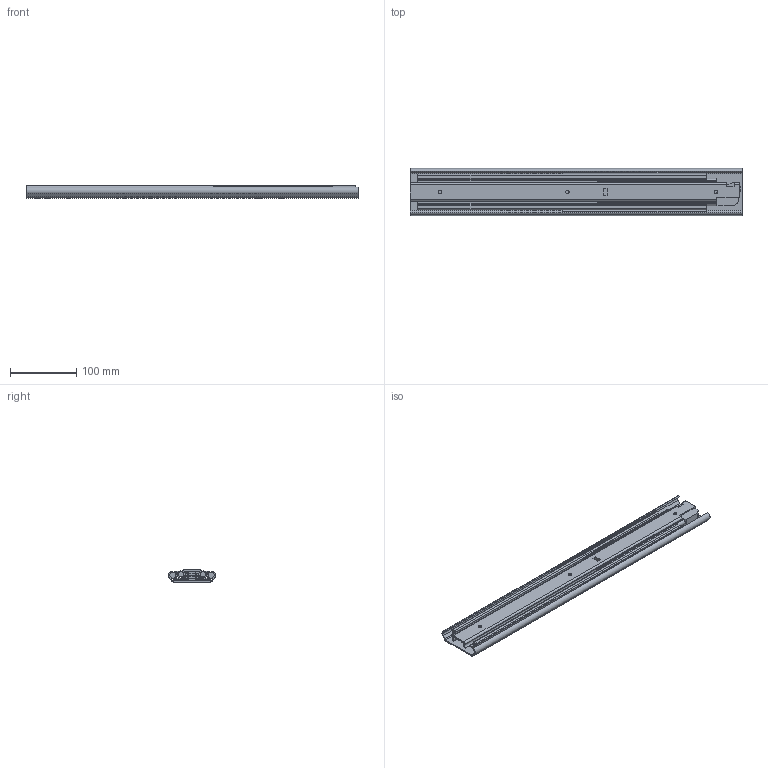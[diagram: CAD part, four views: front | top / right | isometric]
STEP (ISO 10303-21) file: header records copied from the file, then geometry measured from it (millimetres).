
FILE_DESCRIPTION( ( 'STEP AP203' ), '1' );
FILE_NAME( 'C:/Temp/Ganter_Step_05_03_2020/data/3_8/gn1432/Telescopic slide GN 1432-500-B-2-ZB (0).stp', '2020-03-12T15:26:36', ( 'License CC BY-ND 4.0' ), ( 'CADENAS' ), ' ', 'PARTsolutions', ' ' );
FILE_SCHEMA( ( 'CONFIG_CONTROL_DESIGN' ) );
Length unit declared in the file: millimetre
Products named in the file (4): Telescopic slide GN 1432-500-B-2-ZB (0); _Telescopic slide GN 1432-500-B-2-ZB (0)-1; _Telescopic slide GN 1432-500-B-2-ZB (0)-2; _Telescopic slide GN 1432-500-B-2-ZB (0)-3
Assembly tree (3 placements, depth 2):
  Telescopic slide GN 1432-500-B-2-ZB (0)
    _Telescopic slide GN 1432-500-B-2-ZB (0)-1
    _Telescopic slide GN 1432-500-B-2-ZB (0)-2
    _Telescopic slide GN 1432-500-B-2-ZB (0)-3
Bounding box: 500 x 70.88 x 18.4 mm (x, y, z)
Volume: 288480.3 mm3; surface area: 269565.2 mm2
Topology: 3 solids, 3 shells, 301 faces, 873 edges, 573 vertices
Faces by surface type: plane 178, cylinder 116, cone 7
Full cylindrical faces by diameter (mm): 5 x3, 6.5 x4, 11 x2
Entity records: 10024 total; most frequent: CARTESIAN_POINT 1745, ORIENTED_EDGE 1710, DIRECTION 1709, EDGE_CURVE 855, LINE 603, VECTOR 603, VERTEX_POINT 571, AXIS2_PLACEMENT_3D 553
